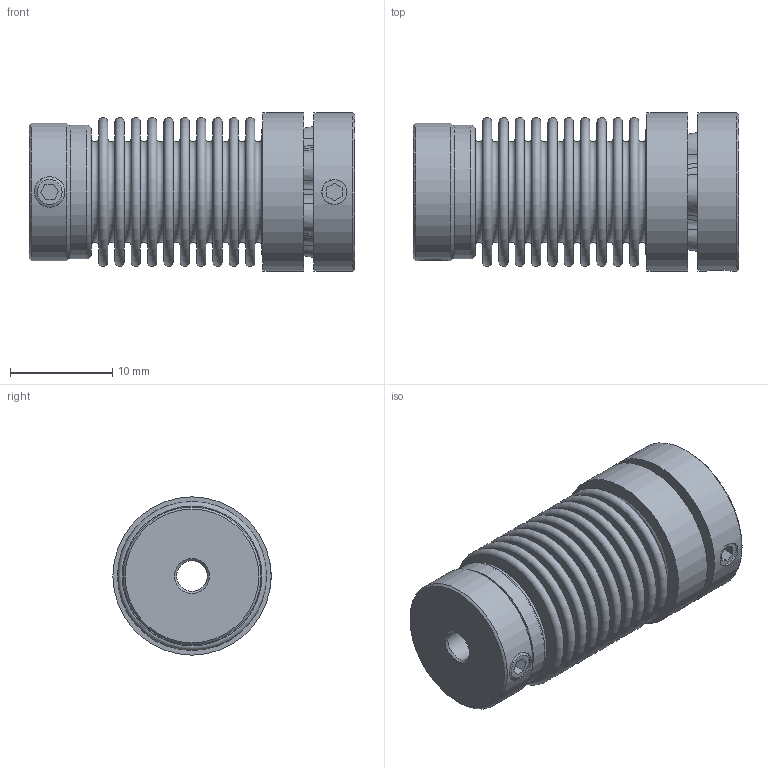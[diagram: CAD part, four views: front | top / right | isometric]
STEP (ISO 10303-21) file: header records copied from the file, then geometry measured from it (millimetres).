
FILE_DESCRIPTION( ( 'KBE1/14 - N7H8 - N14H7 - 98 Sh' ), '1' );
FILE_NAME( 'K:/Konstruktion/Fertigungszeichnungen/Metallbalgkupplung/KB1P/5-10/KB1P-10-32.stp', '14.12.2015', ( 'KBK-Antriebstechnik' ), ( 'KBK-Antriebstechnik' ), 'PSStep 16.0.42', 'Solid Edge St6', ' ' );
FILE_SCHEMA( ( 'AUTOMOTIVE_DESIGN { 1 0 10303 214 1 1 1 1 }' ) );
Length unit declared in the file: millimetre
Products named in the file (6): Assem1; Stecknabe KB1P-10; Balgaufnahme KB2P-10_für Step; MN10_Standard_2; BL10_Standard_0; Socket Set Screw Cup Point_DIN_DIN 916 - M3 x 4-N_8
Assembly tree (6 placements, depth 2):
  Assem1
    Stecknabe KB1P-10
    Balgaufnahme KB2P-10_für Step
    MN10_Standard_2
    BL10_Standard_0
    Socket Set Screw Cup Point_DIN_DIN 916 - M3 x 4-N_8  x2
Bounding box: 31.9 x 15.5 x 15.5 mm (x, y, z)
Volume: 2554.5 mm3; surface area: 6993.6 mm2
Topology: 6 solids, 6 shells, 208 faces, 424 edges, 271 vertices
Faces by surface type: cone 79, plane 69, torus 46, cylinder 14
Full cylindrical faces by diameter (mm): 2.459 x1, 3 x5, 12.9 x3, 13.1 x2, 13.5 x1, 15.5 x2
Entity records: 6652 total; most frequent: DIRECTION 940, CARTESIAN_POINT 927, ORIENTED_EDGE 630, AXIS2_PLACEMENT_3D 431, EDGE_LOOP 322, EDGE_CURVE 315, VERTEX_POINT 264, FACE_OUTER_BOUND 255
